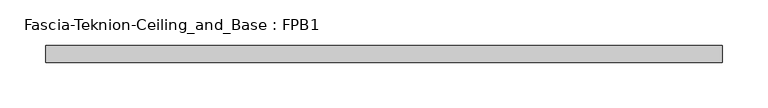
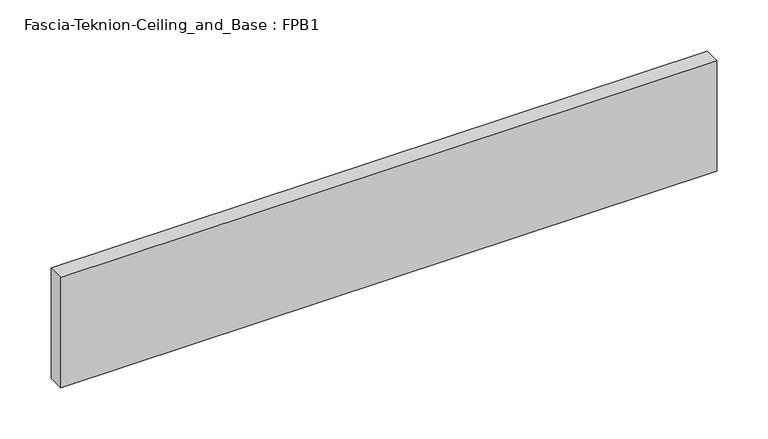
"""IFC4 building model written with IfcOpenShell, lengths in millimetres: proxy geometry, Fascia-Teknion-Ceiling_and_Base : FPB1."""

from ifc_helpers import new_model, si_unit, origin, origin_with_axes, place, context, project, spatial, polyline, outline, extrude, source, transform, mapped, element, save


def fascia_teknion_ceiling_and_base_fpb1_7b58b744(model_context):
    return source(origin(), model_context, "Body", "SweptSolid", [
        extrude(outline(polyline([(371.4253906, 0.0), (-371.4253906, 0.0), (-371.4253906, 19.05), (371.4253906, 19.05), (371.4253906, 0.0)])), origin_with_axes(), (0.0, 0.0, 1.0), 132.08),
    ])


if __name__ == "__main__":
    model = new_model("IFC4")
    model_context = context("Model", 3, world=origin())
    ifc_project = project(units=[si_unit("LENGTHUNIT", "METRE", prefix="MILLI")], contexts=[model_context])
    site = spatial("IfcSite", under=ifc_project)
    building = spatial("IfcBuilding", under=site)
    placement = place(None, origin())
    fascia_teknion_ceiling_and_base_fpb1_shape = fascia_teknion_ceiling_and_base_fpb1_7b58b744(model_context)
    element("IfcBuildingElementProxy", 1, Name="Fascia-Teknion-Ceiling_and_Base : FPB1", ObjectType="Fascia-Teknion-Ceiling_and_Base : FPB1", at=placement, inside=building, context=model_context, shape_type="MappedRepresentation", body=[
        mapped(fascia_teknion_ceiling_and_base_fpb1_shape, transform((0.0, 0.0, 0.0), x_axis=(1.0, 0.0, 0.0), y_axis=(0.0, 1.0, 0.0), z_axis=(0.0, 0.0, 1.0))),
    ])
    save(model, "model.ifc")
